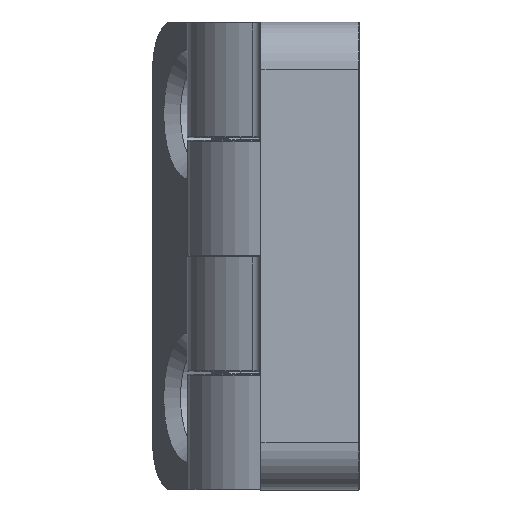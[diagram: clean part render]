
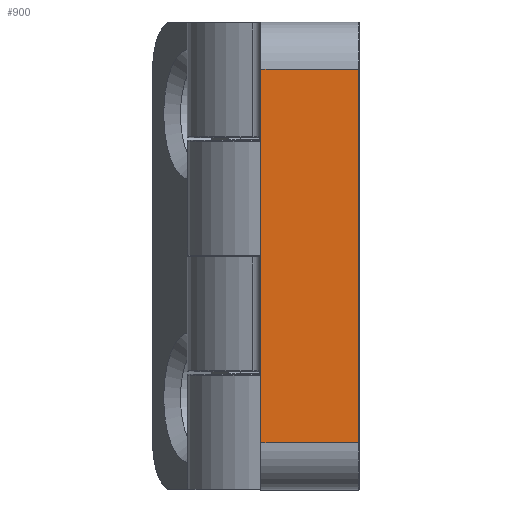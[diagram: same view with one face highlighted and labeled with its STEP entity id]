
A CAD part, left-side view. The second image highlights one B-rep face of the part: STEP entity #900.
In plain terms, the highlighted planar face has unit normal (-1, 0, 0).
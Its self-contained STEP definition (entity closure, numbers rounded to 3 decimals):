
#2 = LINE ( 'NONE', #2440, #2620 ) ;
#42 = EDGE_LOOP ( 'NONE', ( #1573, #1585, #252, #312 ) ) ;
#46 = EDGE_CURVE ( 'NONE', #1122, #1242, #1662, .T. ) ;
#252 = ORIENTED_EDGE ( 'NONE', *, *, #1417, .T. ) ;
#312 = ORIENTED_EDGE ( 'NONE', *, *, #1526, .T. ) ;
#393 = FACE_OUTER_BOUND ( 'NONE', #42, .T. ) ;
#492 = CARTESIAN_POINT ( 'NONE',  ( -15., 10.5, -19.75 ) ) ;
#494 = DIRECTION ( 'NONE',  ( 1., 0., 0. ) ) ;
#519 = DIRECTION ( 'NONE',  ( 0., 0., -1. ) ) ;
#713 = DIRECTION ( 'NONE',  ( 0., 0., -1. ) ) ;
#772 = LINE ( 'NONE', #869, #2226 ) ;
#847 = CARTESIAN_POINT ( 'NONE',  ( -15., 0.1, 19.75 ) ) ;
#869 = CARTESIAN_POINT ( 'NONE',  ( -15., 10.5, 19.75 ) ) ;
#881 = DIRECTION ( 'NONE',  ( 0., -1., 0. ) ) ;
#900 = ADVANCED_FACE ( 'NONE', ( #393 ), #2188, .F. ) ;
#1122 = VERTEX_POINT ( 'NONE', #1194 ) ;
#1194 = CARTESIAN_POINT ( 'NONE',  ( -15., 10.4, -19.75 ) ) ;
#1226 = VECTOR ( 'NONE', #881, 1000. ) ;
#1242 = VERTEX_POINT ( 'NONE', #2294 ) ;
#1274 = CARTESIAN_POINT ( 'NONE',  ( -15., 10.4, 19.75 ) ) ;
#1291 = VERTEX_POINT ( 'NONE', #1855 ) ;
#1294 = DIRECTION ( 'NONE',  ( 0., 1., 0. ) ) ;
#1398 = VERTEX_POINT ( 'NONE', #1274 ) ;
#1417 = EDGE_CURVE ( 'NONE', #1291, #1398, #772, .T. ) ;
#1526 = EDGE_CURVE ( 'NONE', #1398, #1122, #2, .T. ) ;
#1573 = ORIENTED_EDGE ( 'NONE', *, *, #46, .T. ) ;
#1585 = ORIENTED_EDGE ( 'NONE', *, *, #1799, .T. ) ;
#1662 = LINE ( 'NONE', #492, #1226 ) ;
#1757 = CARTESIAN_POINT ( 'NONE',  ( -15., 10.5, 24.75 ) ) ;
#1799 = EDGE_CURVE ( 'NONE', #1242, #1291, #2120, .T. ) ;
#1855 = CARTESIAN_POINT ( 'NONE',  ( -15., 0.1, 19.75 ) ) ;
#1860 = AXIS2_PLACEMENT_3D ( 'NONE', #1757, #494, #713 ) ;
#2120 = LINE ( 'NONE', #847, #2502 ) ;
#2188 = PLANE ( 'NONE',  #1860 ) ;
#2226 = VECTOR ( 'NONE', #1294, 1000. ) ;
#2294 = CARTESIAN_POINT ( 'NONE',  ( -15., 0.1, -19.75 ) ) ;
#2336 = DIRECTION ( 'NONE',  ( 0., 0., 1. ) ) ;
#2440 = CARTESIAN_POINT ( 'NONE',  ( -15., 10.4, 24.75 ) ) ;
#2502 = VECTOR ( 'NONE', #2336, 1000. ) ;
#2620 = VECTOR ( 'NONE', #519, 1000. ) ;
